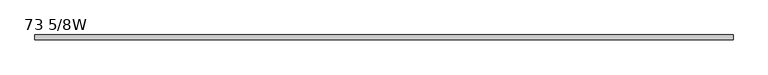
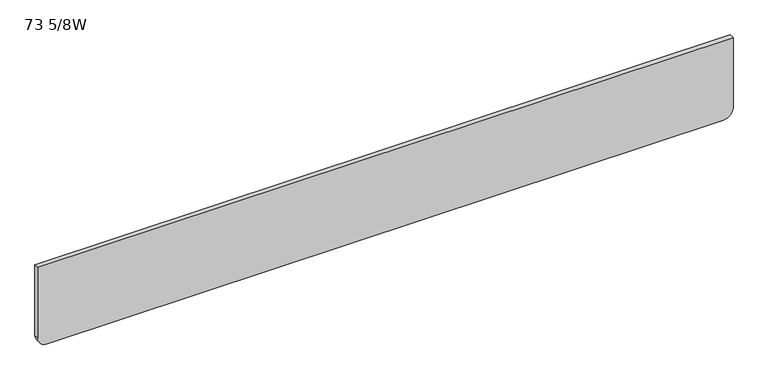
"""IFC4 building model written with IfcOpenShell, lengths in millimetres: furniture geometry, Steelcase - Groupwork - Table Component - Modesty Panel : 73 5/8W."""

from ifc_helpers import new_model, si_unit, point, frame, frame_2d, origin, place, context, project, spatial, polyline, circle_curve, trimmed, segment, composite_curve, outline, extrude, source, transform, mapped, element, save


def furniture_73_5_8w_1875b487(model_context):
    return source(origin(), model_context, "Body", "SweptSolid", [
        extrude(outline(composite_curve([segment(polyline([(497.8399855, 1813.1116774), (698.5000242, 1813.1116774), (698.5000242, -57.5983226), (497.8399855, -57.5983226)]), True, "CONTINUOUS"), segment(trimmed(circle_curve(frame_2d((497.8399855, -32.1983226)), 25.4), [point((497.8399855, -57.5983226))], [point((472.4399855, -32.1983226))], False, "CARTESIAN"), True, "CONTINUOUS"), segment(polyline([(472.4399855, -32.1983226), (472.4399855, 1787.7116774)]), True, "CONTINUOUS"), segment(trimmed(circle_curve(frame_2d((497.8399855, 1787.7116774)), 25.4), [point((472.4399855, 1787.7116774))], [point((497.8399855, 1813.1116774))], False, "CARTESIAN"), True, "CONTINUOUS")], self_intersect=False)), frame((0.0, -585.8617631, 0.0), z_axis=(0.0, 1.0, 0.0), x_axis=(0.0, 0.0, 1.0)), (0.0, 0.0, 1.0), 12.7),
    ])


if __name__ == "__main__":
    model = new_model("IFC4")
    model_context = context("Model", 3, world=origin())
    ifc_project = project(units=[si_unit("LENGTHUNIT", "METRE", prefix="MILLI")], contexts=[model_context])
    site = spatial("IfcSite", under=ifc_project)
    building = spatial("IfcBuilding", under=site)
    placement = place(None, origin())
    furniture_73_5_8w_shape = furniture_73_5_8w_1875b487(model_context)
    element("IfcFurniture", 1, ObjectType="Steelcase - Groupwork - Table Component - Modesty Panel : 73 5/8W", at=placement, inside=building, context=model_context, shape_type="MappedRepresentation", body=[
        mapped(furniture_73_5_8w_shape, transform((0.0, 0.0, 0.0), x_axis=(1.0, 0.0, 0.0), y_axis=(0.0, 1.0, 0.0), z_axis=(0.0, 0.0, 1.0))),
    ])
    save(model, "model.ifc")
